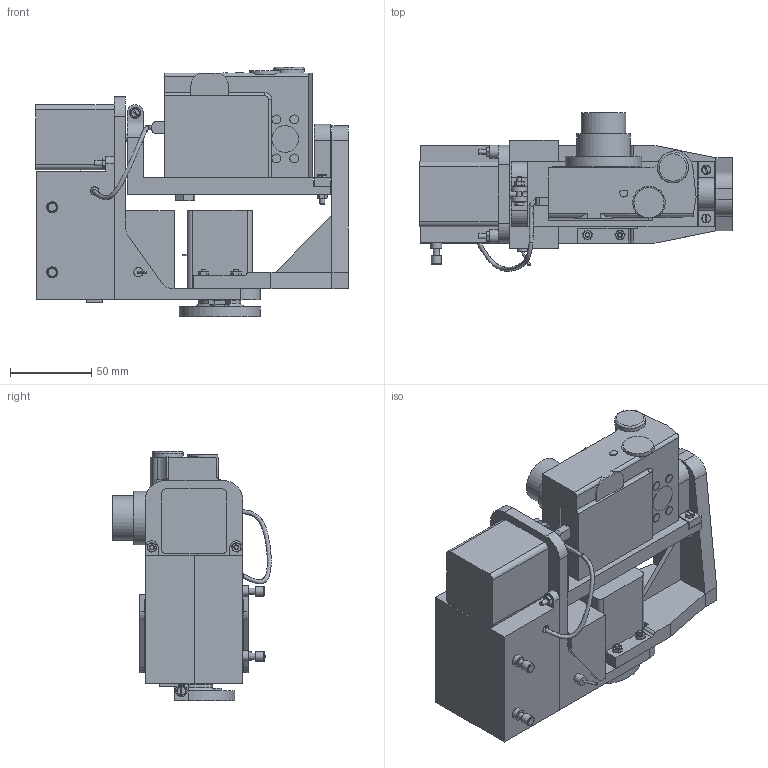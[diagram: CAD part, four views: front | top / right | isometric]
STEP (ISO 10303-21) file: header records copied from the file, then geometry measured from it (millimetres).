
FILE_DESCRIPTION(/* description */ ('Alibre Inc.'),/* implementation_level */ '2;1');
FILE_NAME(/* name */ 'export0',/* time_stamp */ '2010-04-26T16:55:14+02:00',/* author */ (''),/* organization */ (''),/* preprocessor_version */ 'ST-DEVELOPER v10',/* originating_system */ 'Alibre',/* authorisation */ '');
FILE_SCHEMA (('AUTOMOTIVE_DESIGN'));
Length unit declared in the file: inch
Bounding box: 192.16 x 97.45 x 153.24 mm (x, y, z)
Volume: 725621.5 mm3; surface area: 207319.4 mm2
Topology: 61 solids, 61 shells, 956 faces, 2204 edges, 1463 vertices
Faces by surface type: plane 609, cylinder 231, torus 82, cone 30, revolution 2, bspline 2
Full cylindrical faces by diameter (mm): 0.965 x8, 2 x8, 2.845 x8, 3 x28, 3.2 x24, 3.5 x12, 3.786 x4, 3.8 x4, 4 x2, 4.5 x5, 4.999 x2, 5 x6, 5.5 x23, 5.7 x1, 6 x2, 6.35 x4, 6.8 x2, 7 x18, 8 x1, 8.5 x1, 9.7 x2, 14 x1, 16.5 x1, 18.5 x1, 19 x1, 21.996 x2, 27.5 x1, 28 x2, 33 x1, 47 x1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
Entity records: 16772 total; most frequent: CARTESIAN_POINT 4416, DIRECTION 2232, ORIENTED_EDGE 2212, EDGE_CURVE 1106, AXIS2_PLACEMENT_3D 947, VERTEX_POINT 801, FACE_BOUND 775, EDGE_LOOP 774
